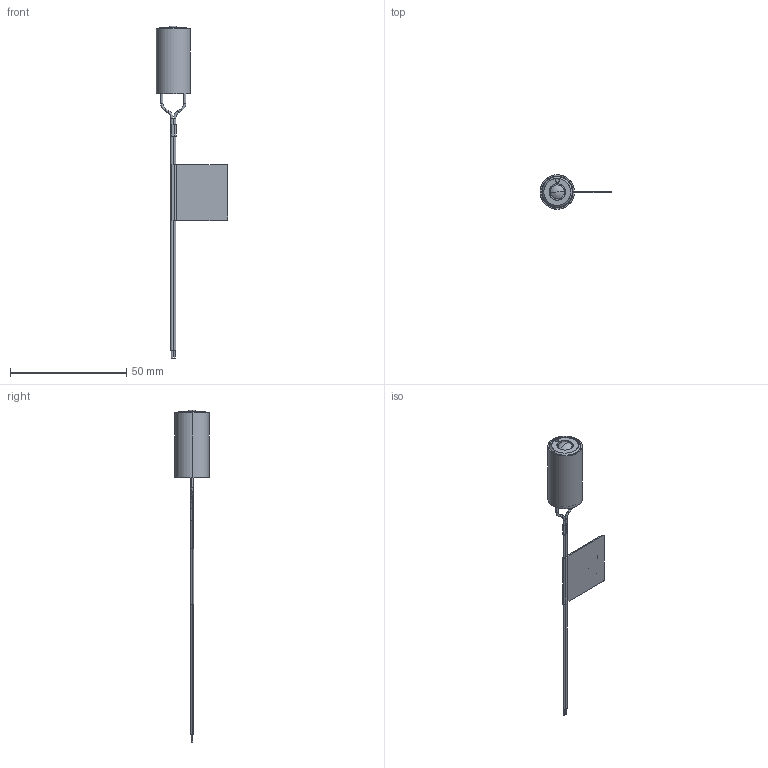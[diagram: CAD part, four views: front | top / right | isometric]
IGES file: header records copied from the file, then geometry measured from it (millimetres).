
Start section: SolidWorks IGES file using analytic representation for surfaces
Global section: file name: N:\POR\Public\PLMProductInfo\VLM ULN\VLM2-8L\VLM2-8L.IGS; native system: SolidWorks 2019; preprocessor: SolidWorks 2019; author: LewisD; date: 200109.094619; units: inch
Bounding box: 30.81 x 14.74 x 142.56 mm (x, y, z)
Surface area: 4868.7 mm2 (no closed solid volume)
Topology: 0 solids, 0 shells, 172 faces, 1774 edges, 1773 vertices
Faces by surface type: bspline 112, revolution 60
